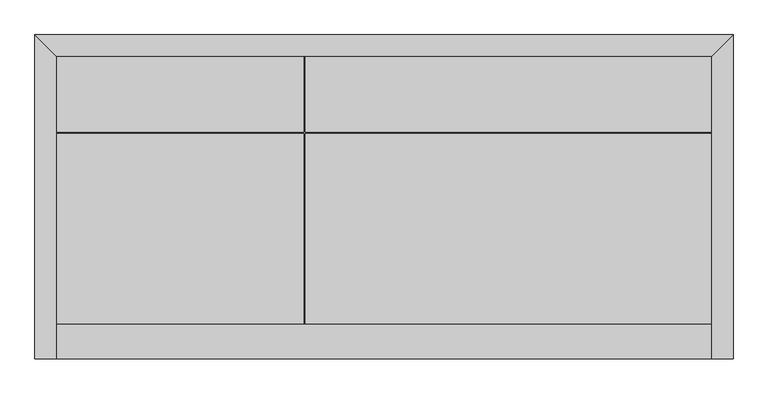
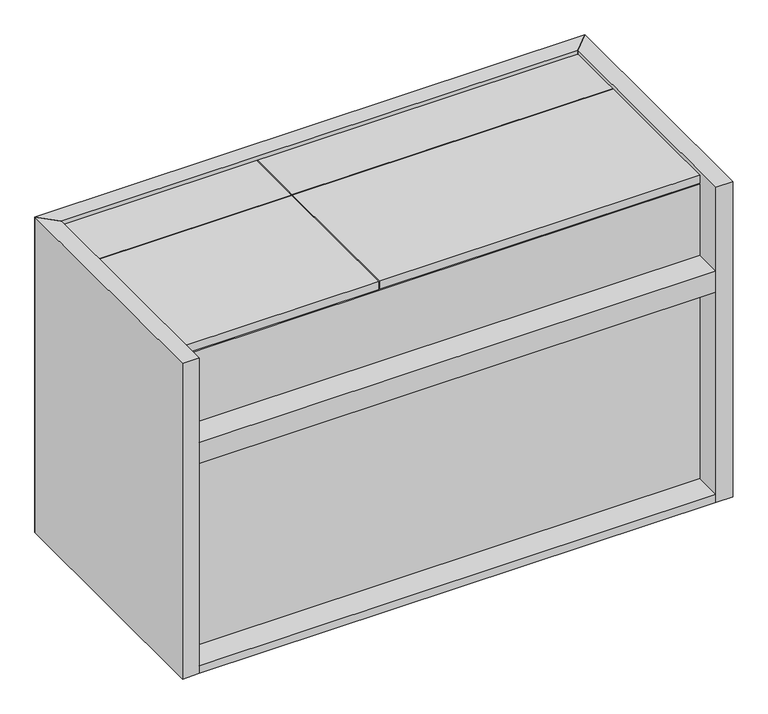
"""IFC4 building model written with IfcOpenShell, lengths in millimetres: proxy geometry, AERO^OFFICE 3_30x48x23 LEFT PED-PARTS SOLID."""

from ifc_helpers import new_model, si_unit, frame, origin, origin_with_axes, place, context, project, spatial, polyline, outline, extrude, source, transform, mapped, element, save


def generic_models_797e400e(model_context):
    return source(origin(), model_context, "Body", "SweptSolid", [
        extrude(outline(polyline([(1181.1, 546.1), (0.0, 546.1), (-38.1, 584.2), (1219.2, 584.2), (1181.1, 546.1)])), origin_with_axes(), (0.0, 0.0, 1.0), 762.0),
        extrude(outline(polyline([(0.0, 63.5), (0.0, 82.55), (1181.1, 82.55), (1181.1, 63.5), (0.0, 63.5)])), frame((0.0, 0.0, 19.05), z_axis=(0.0, 0.0, 1.0), x_axis=(1.0, 0.0, 0.0)), (0.0, 0.0, 1.0), 711.2),
        extrude(outline(polyline([(457.2, 82.55), (438.15, 82.55), (438.15, 546.1), (457.2, 546.1), (457.2, 82.55)])), frame((0.0, 0.0, 19.05), z_axis=(0.0, 0.0, 1.0), x_axis=(1.0, 0.0, 0.0)), (0.0, 0.0, 1.0), 711.2),
        extrude(outline(polyline([(1181.1, 546.1), (1219.2, 584.2), (1219.2, 0.0), (1181.1, 0.0), (1181.1, 546.1)])), origin_with_axes(), (0.0, 0.0, 1.0), 762.0),
        extrude(outline(polyline([(1190.625, 63.5), (448.46875, 63.5), (448.46875, 406.4), (1190.625, 406.4), (1190.625, 63.5)])), frame((0.0, 0.0, 733.425), z_axis=(0.0, 0.0, 1.0), x_axis=(1.0, 0.0, 0.0)), (0.0, 0.0, 1.0), 19.05),
        extrude(outline(polyline([(-9.525, 406.4), (446.0875, 406.4), (446.0875, 63.5), (-9.525, 63.5), (-9.525, 406.4)])), frame((0.0, 0.0, 733.425), z_axis=(0.0, 0.0, 1.0), x_axis=(1.0, 0.0, 0.0)), (0.0, 0.0, 1.0), 19.05),
        extrude(outline(polyline([(-38.1, 584.2), (0.0, 546.1), (0.0, 0.0), (-38.1, 0.0), (-38.1, 584.2)])), origin_with_axes(), (0.0, 0.0, 1.0), 762.0),
        extrude(outline(polyline([(1190.625, 408.78125), (448.46875, 408.78125), (448.46875, 555.625), (1190.625, 555.625), (1190.625, 408.78125)])), frame((0.0, 0.0, 733.425), z_axis=(0.0, 0.0, 1.0), x_axis=(1.0, 0.0, 0.0)), (0.0, 0.0, 1.0), 19.05),
        extrude(outline(polyline([(1181.1, 546.1), (1181.1, 0.0), (0.0, 0.0), (0.0, 546.1), (1181.1, 546.1)])), origin_with_axes(), (0.0, 0.0, 1.0), 19.05),
        extrude(outline(polyline([(446.0875, 555.625), (446.0875, 408.78125), (-9.525, 408.78125), (-9.525, 555.625), (446.0875, 555.625)])), frame((0.0, 0.0, 733.425), z_axis=(0.0, 0.0, 1.0), x_axis=(1.0, 0.0, 0.0)), (0.0, 0.0, 1.0), 19.05),
        extrude(outline(polyline([(1181.1, 63.5), (1181.1, 0.0), (0.0, 0.0), (0.0, 63.5), (1181.1, 63.5)])), frame((0.0, 0.0, 508.0), z_axis=(0.0, 0.0, 1.0), x_axis=(1.0, 0.0, 0.0)), (0.0, 0.0, 1.0), 50.8),
    ])


if __name__ == "__main__":
    model = new_model("IFC4")
    model_context = context("Model", 3, world=origin())
    ifc_project = project(units=[si_unit("LENGTHUNIT", "METRE", prefix="MILLI")], contexts=[model_context])
    site = spatial("IfcSite", under=ifc_project)
    building = spatial("IfcBuilding", under=site)
    placement = place(None, origin())
    generic_models_shape = generic_models_797e400e(model_context)
    element("IfcBuildingElementProxy", 1, Name="AERO^OFFICE 3_30x48x23 LEFT PED-PARTS SOLID", ObjectType="AERO^OFFICE 3_30x48x23 LEFT PED-PARTS SOLID", at=placement, inside=building, context=model_context, shape_type="MappedRepresentation", body=[
        mapped(generic_models_shape, transform((0.0, 0.0, 0.0), x_axis=(1.0, 0.0, 0.0), y_axis=(0.0, 1.0, 0.0), z_axis=(0.0, 0.0, 1.0))),
    ])
    save(model, "model.ifc")
